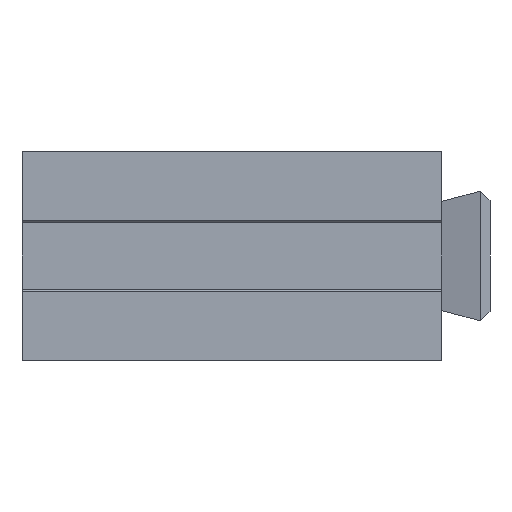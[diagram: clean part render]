
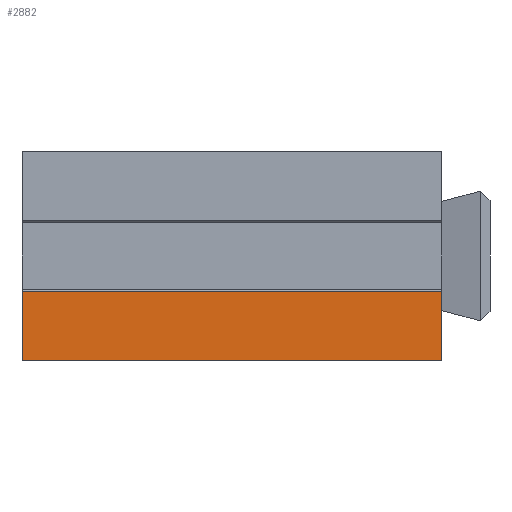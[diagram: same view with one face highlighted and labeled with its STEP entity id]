
A CAD part, left-side view. The second image highlights one B-rep face of the part: STEP entity #2882.
In plain terms, the highlighted planar face has unit normal (-1, 0, 0).
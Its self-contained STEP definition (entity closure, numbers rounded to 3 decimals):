
#158=FACE_OUTER_BOUND('',#314,.T.);
#314=EDGE_LOOP('',(#2545,#2546,#2547,#2548));
#605=LINE('',#4301,#1009);
#621=LINE('',#4333,#1025);
#716=LINE('',#4519,#1120);
#722=LINE('',#4530,#1126);
#1009=VECTOR('',#3499,10.);
#1025=VECTOR('',#3523,10.);
#1120=VECTOR('',#3696,10.);
#1126=VECTOR('',#3712,10.);
#1321=VERTEX_POINT('',#4298);
#1322=VERTEX_POINT('',#4300);
#1333=VERTEX_POINT('',#4330);
#1334=VERTEX_POINT('',#4332);
#1665=EDGE_CURVE('',#1321,#1322,#605,.T.);
#1681=EDGE_CURVE('',#1333,#1334,#621,.T.);
#1776=EDGE_CURVE('',#1322,#1333,#716,.T.);
#1782=EDGE_CURVE('',#1321,#1334,#722,.T.);
#2545=ORIENTED_EDGE('',*,*,#1782,.T.);
#2546=ORIENTED_EDGE('',*,*,#1681,.F.);
#2547=ORIENTED_EDGE('',*,*,#1776,.F.);
#2548=ORIENTED_EDGE('',*,*,#1665,.F.);
#2734=PLANE('',#3032);
#2882=ADVANCED_FACE('',(#158),#2734,.T.);
#3032=AXIS2_PLACEMENT_3D('',#4531,#3713,#3714);
#3499=DIRECTION('',(0.,0.,-1.));
#3523=DIRECTION('',(0.,0.,1.));
#3696=DIRECTION('',(0.,1.,0.));
#3712=DIRECTION('',(0.,1.,0.));
#3713=DIRECTION('center_axis',(-1.,0.,0.));
#3714=DIRECTION('ref_axis',(0.,0.,1.));
#4298=CARTESIAN_POINT('',(-5.,0.,3.3));
#4300=CARTESIAN_POINT('',(-5.,0.,0.));
#4301=CARTESIAN_POINT('',(-5.,0.,2.5));
#4330=CARTESIAN_POINT('',(-5.,20.,0.));
#4332=CARTESIAN_POINT('',(-5.,20.,3.3));
#4333=CARTESIAN_POINT('',(-5.,20.,7.5));
#4519=CARTESIAN_POINT('',(-5.,2.25,0.));
#4530=CARTESIAN_POINT('',(-5.,10.75,3.3));
#4531=CARTESIAN_POINT('Origin',(-5.,1.5,5.));
